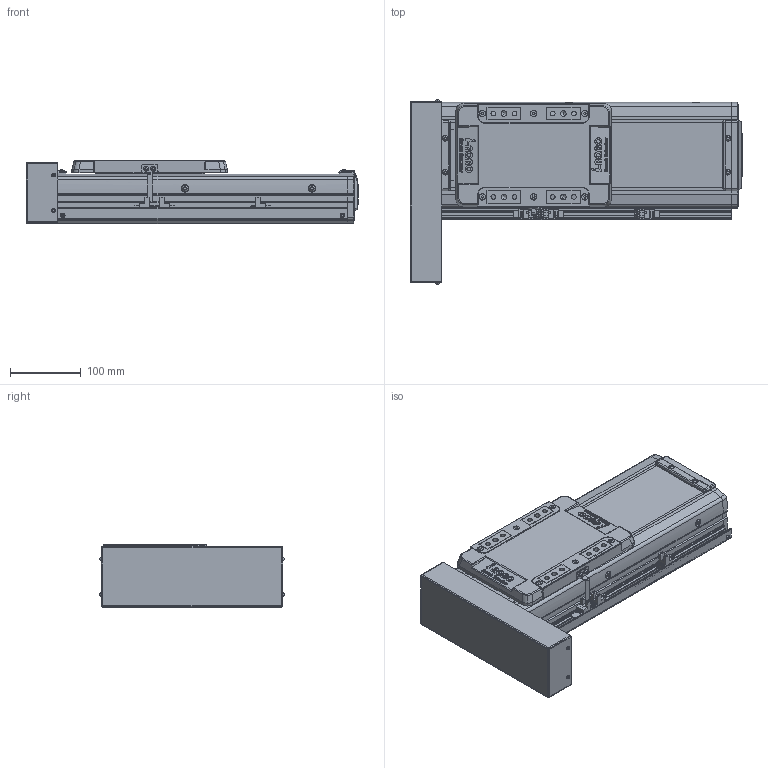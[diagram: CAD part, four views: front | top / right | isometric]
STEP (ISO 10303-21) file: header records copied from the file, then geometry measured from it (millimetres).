
FILE_DESCRIPTION(('STEP AP214'),'1');
FILE_NAME('Z:/Web/3D/SAN150/2013.04 (STP.)/SAN150ㅁㅁ-150PR+3SR.stp','2013-05-08T02:43:03',(' '),(' '),'Spatial InterOp 3D',' ',' ');
FILE_SCHEMA(('automotive_design'));
Length unit declared in the file: millimetre
Products named in the file (58): SLBL-SAN150; SLCV-SAN150; FHCS M4.0 x 8.0; BHCS M4.0 x 10.0; SFX-SAN150; RRCV-SAN150; FRBL-SAN150; Spacer; RN15; FRCV-SAN150; Screw 20; BASE-SAN150-000L ; SUS COVER; 스크루 : Round - M5.0 x 6.0; BHCS M3.0 x 6.0; P; M3.0 x 6.0; SRL-16x17-360L; SGD-SAN150; EE-SX674; SBK-SX674-352; 스크루 : Round - M3.0 x 6.0
Bounding box: 470 x 260.73 x 90 mm (x, y, z)
Volume: 3981760.8 mm3; surface area: 703356.7 mm2
Topology: 58 solids, 58 shells, 2532 faces, 6498 edges, 4183 vertices
Faces by surface type: plane 1380, cylinder 797, cone 242, sphere 80, bspline 21, torus 12
Entity records: 99722 total; most frequent: CARTESIAN_POINT 15437, DIRECTION 13740, ORIENTED_EDGE 12796, EDGE_CURVE 6398, AXIS2_PLACEMENT_3D 4845, VERTEX_POINT 4183, LINE 4050, VECTOR 4050
